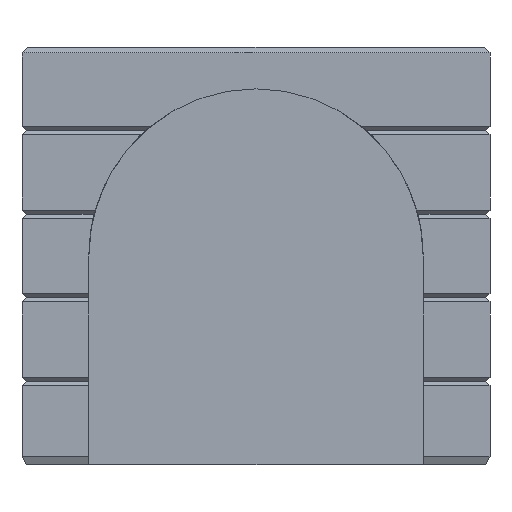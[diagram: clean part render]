
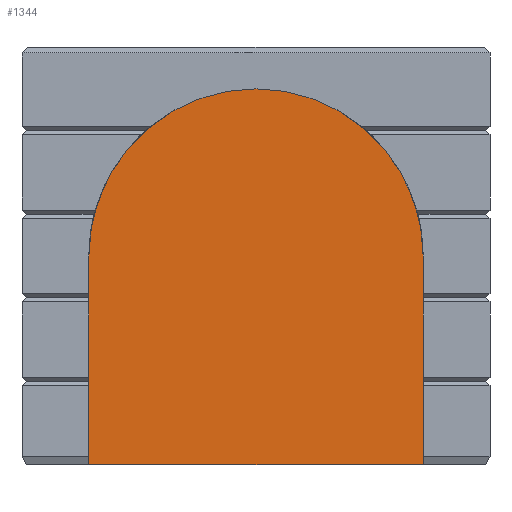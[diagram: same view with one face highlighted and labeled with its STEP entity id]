
A CAD part, front view. The second image highlights one B-rep face of the part: STEP entity #1344.
In plain terms, the highlighted planar face has unit normal (0, -1, 0).
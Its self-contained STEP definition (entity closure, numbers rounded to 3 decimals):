
#45=FACE_OUTER_BOUND('',#129,.T.);
#129=EDGE_LOOP('',(#928,#929,#930,#931));
#246=LINE('',#2002,#425);
#249=LINE('',#2008,#428);
#250=LINE('',#2010,#429);
#251=LINE('',#2011,#430);
#425=VECTOR('',#1604,10.);
#428=VECTOR('',#1609,10.);
#429=VECTOR('',#1610,10.);
#430=VECTOR('',#1611,10.);
#593=VERTEX_POINT('',#1999);
#594=VERTEX_POINT('',#2001);
#596=VERTEX_POINT('',#2007);
#597=VERTEX_POINT('',#2009);
#715=EDGE_CURVE('',#593,#594,#246,.T.);
#718=EDGE_CURVE('',#596,#593,#249,.T.);
#719=EDGE_CURVE('',#596,#597,#250,.T.);
#720=EDGE_CURVE('',#597,#594,#251,.T.);
#928=ORIENTED_EDGE('',*,*,#715,.F.);
#929=ORIENTED_EDGE('',*,*,#718,.F.);
#930=ORIENTED_EDGE('',*,*,#719,.T.);
#931=ORIENTED_EDGE('',*,*,#720,.T.);
#1261=PLANE('',#1443);
#1344=ADVANCED_FACE('',(#45),#1261,.T.);
#1443=AXIS2_PLACEMENT_3D('',#2006,#1607,#1608);
#1604=DIRECTION('',(1.,0.,0.));
#1607=DIRECTION('center_axis',(0.,-1.,0.));
#1608=DIRECTION('ref_axis',(1.,0.,0.));
#1609=DIRECTION('',(0.,0.,1.));
#1610=DIRECTION('',(1.,0.,0.));
#1611=DIRECTION('',(0.,0.,1.));
#1999=CARTESIAN_POINT('',(-23.,51.,49.));
#2001=CARTESIAN_POINT('',(23.,51.,49.));
#2002=CARTESIAN_POINT('',(-11.5,51.,49.));
#2006=CARTESIAN_POINT('Origin',(-23.,51.,0.));
#2007=CARTESIAN_POINT('',(-23.,51.,0.));
#2008=CARTESIAN_POINT('',(-23.,51.,0.));
#2009=CARTESIAN_POINT('',(23.,51.,0.));
#2010=CARTESIAN_POINT('',(23.,51.,0.));
#2011=CARTESIAN_POINT('',(23.,51.,0.));
